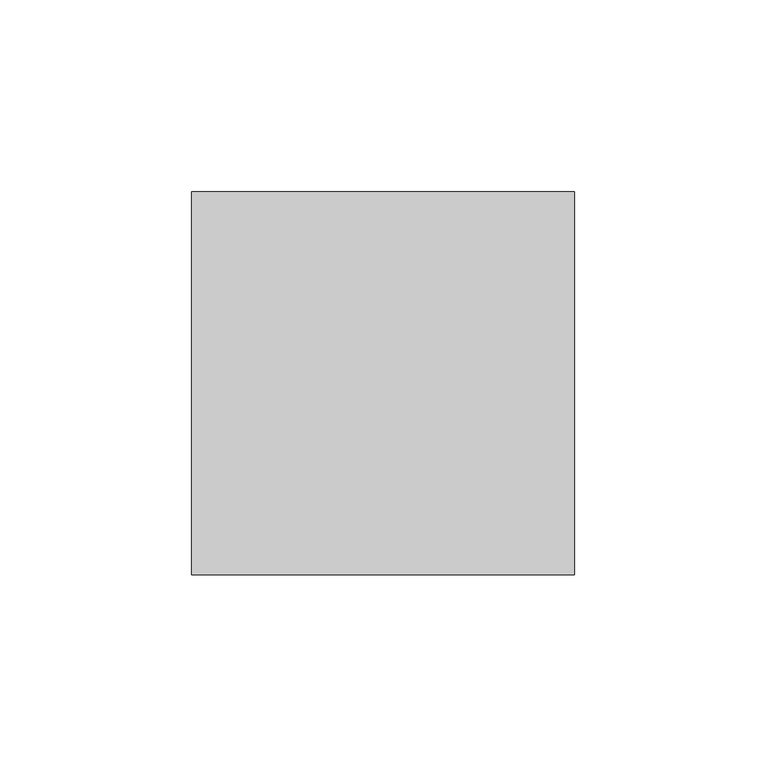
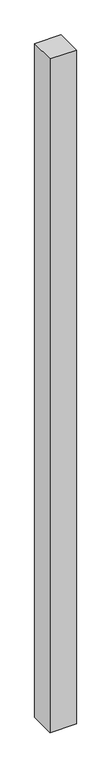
"""IFC4 building model written with IfcOpenShell, lengths in millimetres: member geometry, Montante angular cuadrilátero : Montante cuadrilátero 1."""

from ifc_helpers import new_model, si_unit, frame, origin, place, context, project, spatial, polyline, outline, extrude, source, transform, mapped, element, save


def member_df5dc72e(model_context):
    return source(origin(), model_context, "Body", "SweptSolid", [
        extrude(outline(polyline([(50.0, 50.0), (50.0, -50.0), (-50.0, -50.0), (-50.0, 50.0), (50.0, 50.0)])), frame((0.0, 0.0, -2700.0), z_axis=(0.0, 0.0, 1.0), x_axis=(1.0, 0.0, 0.0)), (0.0, 0.0, 1.0), 2700.0),
    ])


if __name__ == "__main__":
    model = new_model("IFC4")
    model_context = context("Model", 3, world=origin())
    ifc_project = project(units=[si_unit("LENGTHUNIT", "METRE", prefix="MILLI")], contexts=[model_context])
    site = spatial("IfcSite", under=ifc_project)
    building = spatial("IfcBuilding", under=site)
    placement = place(None, origin())
    member_shape = member_df5dc72e(model_context)
    element("IfcMember", 1, ObjectType="Montante angular cuadrilátero : Montante cuadrilátero 1", at=placement, inside=building, context=model_context, shape_type="MappedRepresentation", body=[
        mapped(member_shape, transform((0.0, 0.0, 0.0), x_axis=(1.0, 0.0, 0.0), y_axis=(0.0, 1.0, 0.0), z_axis=(0.0, 0.0, 1.0))),
    ])
    save(model, "model.ifc")
